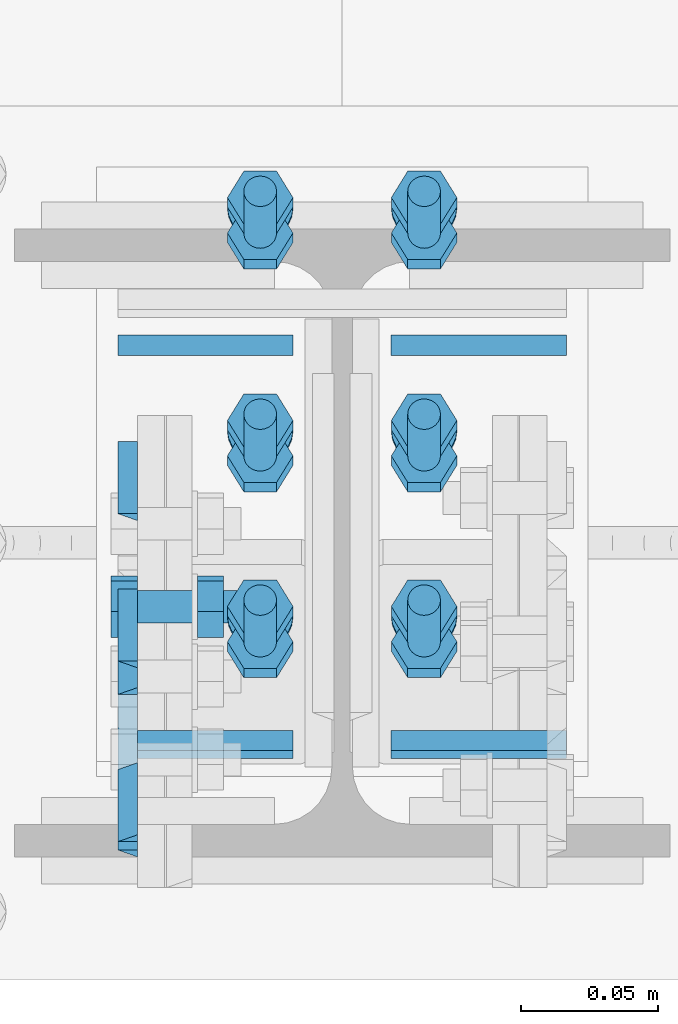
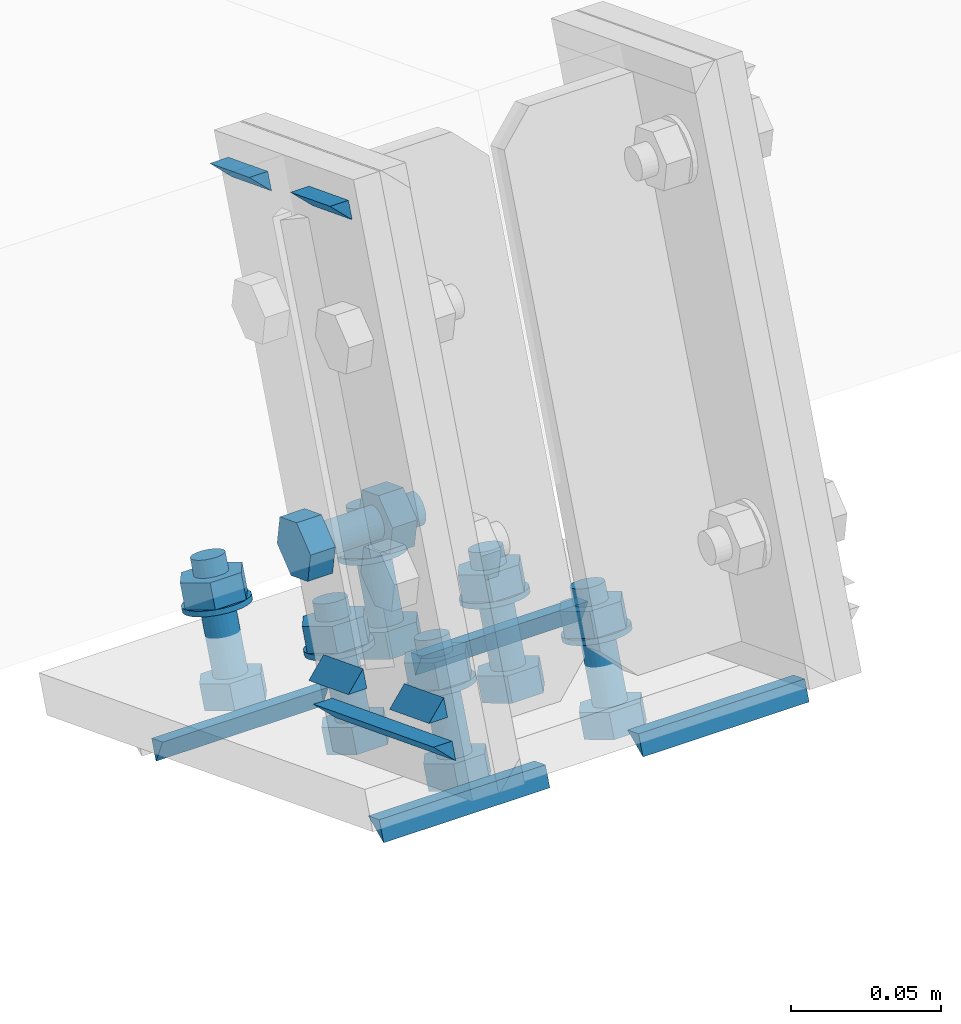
# One storey, part 34 of 72: 27 mechanical fasteners, 18 fasteners.
"""IFC4 building model written with IfcOpenShell, lengths in metres."""

from ifc_helpers import new_model, si_unit, frame, origin_with_axes, place, context, project, spatial, polyline, outline, extrude, type_object, element, save


model = new_model("IFC4")

# Units and contexts
model_context = context("Model", 3, precision=1e-05, world=origin_with_axes())
ifc_project = project(units=[si_unit("LENGTHUNIT", "METRE"), si_unit("AREAUNIT", "SQUARE_METRE"), si_unit("VOLUMEUNIT", "CUBIC_METRE"), si_unit("MASSUNIT", "GRAM", prefix="KILO"), si_unit("TIMEUNIT", "SECOND"), si_unit("PLANEANGLEUNIT", "RADIAN"), si_unit("SOLIDANGLEUNIT", "STERADIAN"), si_unit("THERMODYNAMICTEMPERATUREUNIT", "DEGREE_CELSIUS")], contexts=[model_context])

# Site, building, storey
placement_1 = place(None, origin_with_axes())
site = spatial("IfcSite", under=ifc_project, at=placement_1, Name="Italia", CompositionType="ELEMENT")
building = spatial("IfcBuilding", under=site, at=placement_1, Name="Uffici", CompositionType="ELEMENT")
storey = spatial("IfcBuildingStorey", under=building, at=placement_1, Name="Storey 0", CompositionType="ELEMENT", Elevation=0.0)

# Fasteners
fastener_type_1 = type_object("IfcFastenerType", Name="Collegamento 0203_0103", PredefinedType="WELD")
placement_2 = place(placement_1, origin_with_axes())
fastener_1_placement = place(placement_2, origin_with_axes())
element("IfcFastener", 1, at=fastener_1_placement, inside=storey, type_object=fastener_type_1, Name="Collegamento 0203_0103", context=model_context, shape_type="SweptSolid", body=[
    extrude(outline(polyline([(0.0, 0.0), (-0.00443701, -0.0104871), (-0.00739191, -0.00286627), (0.0, 0.0)])), frame((6.83705, 0.0686728, 6.96138), z_axis=(-1.0, 0.0, 0.0), x_axis=(0.0, -1.0, 0.0)), (0.0, 0.0, 1.0), 0.0641007),
])
fastener_type_2 = type_object("IfcFastenerType", Name="Collegamento 0203_0103", PredefinedType="WELD")
fastener_2_placement = place(placement_2, origin_with_axes())
element("IfcFastener", 2, at=fastener_2_placement, inside=storey, type_object=fastener_type_2, Name="Collegamento 0203_0103", context=model_context, shape_type="SweptSolid", body=[
    extrude(outline(polyline([(0.0, 0.0), (-0.0103468, -0.00475407), (-0.00739191, 0.00286627), (0.0, 0.0)])), frame((6.77295, -0.0686365, 7.01462), z_axis=(1.0, 0.0, 0.0), x_axis=(0.0, 1.0, 0.0)), (0.0, 0.0, 1.0), 0.0641007),
])
fastener_type_3 = type_object("IfcFastenerType", Name="Collegamento 0203_0103", PredefinedType="WELD")
fastener_3_placement = place(placement_2, origin_with_axes())
element("IfcFastener", 3, at=fastener_3_placement, inside=storey, type_object=fastener_type_3, Name="Collegamento 0203_0103", context=model_context, shape_type="SweptSolid", body=[
    extrude(outline(polyline([(0.0, 0.0), (-0.0103468, -0.00475407), (-0.00739191, 0.00286627), (0.0, 0.0)])), frame((6.67295, -0.0686365, 7.01462), z_axis=(1.0, 0.0, 0.0), x_axis=(0.0, 1.0, 0.0)), (0.0, 0.0, 1.0), 0.0641007),
])
fastener_type_4 = type_object("IfcFastenerType", Name="Collegamento 0203_0103", PredefinedType="WELD")
fastener_4_placement = place(placement_2, origin_with_axes())
element("IfcFastener", 4, at=fastener_4_placement, inside=storey, type_object=fastener_type_4, Name="Collegamento 0203_0103", context=model_context, shape_type="SweptSolid", body=[
    extrude(outline(polyline([(0.0, 0.0), (-0.00443701, -0.0104871), (-0.00739191, -0.00286627), (0.0, 0.0)])), frame((6.73705, 0.0686728, 6.96138), z_axis=(-1.0, 0.0, 0.0), x_axis=(0.0, -1.0, 0.0)), (0.0, 0.0, 1.0), 0.0641007),
])
fastener_type_5 = type_object("IfcFastenerType", Name="Collegamento 0203_0103", PredefinedType="WELD")
fastener_5_placement = place(placement_2, origin_with_axes())
element("IfcFastener", 5, at=fastener_5_placement, inside=storey, type_object=fastener_type_5, Name="Collegamento 0203_0103", context=model_context, shape_type="SweptSolid", body=[
    extrude(outline(polyline([(0.0, 0.0), (-0.00443701, -0.0104871), (-0.00739191, -0.00286627), (0.0, 0.0)])), frame((6.83705, 0.0686728, 6.96138), z_axis=(-1.0, 0.0, 0.0), x_axis=(0.0, -1.0, 0.0)), (0.0, 0.0, 1.0), 0.0641007),
])
fastener_type_6 = type_object("IfcFastenerType", Name="Collegamento 0203_0103", PredefinedType="WELD")
fastener_6_placement = place(placement_2, origin_with_axes())
element("IfcFastener", 6, at=fastener_6_placement, inside=storey, type_object=fastener_type_6, Name="Collegamento 0203_0103", context=model_context, shape_type="SweptSolid", body=[
    extrude(outline(polyline([(0.0, 0.0), (-0.0103468, -0.00475407), (-0.00739191, 0.00286627), (0.0, 0.0)])), frame((6.77295, -0.0686365, 7.01462), z_axis=(1.0, 0.0, 0.0), x_axis=(0.0, 1.0, 0.0)), (0.0, 0.0, 1.0), 0.0641007),
])
fastener_type_7 = type_object("IfcFastenerType", Name="Collegamento 0203_0103", PredefinedType="WELD")
fastener_7_placement = place(placement_2, origin_with_axes())
element("IfcFastener", 7, at=fastener_7_placement, inside=storey, type_object=fastener_type_7, Name="Collegamento 0203_0103", context=model_context, shape_type="SweptSolid", body=[
    extrude(outline(polyline([(0.0, 0.0), (-0.0103468, -0.00475407), (-0.00739191, 0.00286627), (0.0, 0.0)])), frame((6.67295, -0.0686365, 7.01462), z_axis=(1.0, 0.0, 0.0), x_axis=(0.0, 1.0, 0.0)), (0.0, 0.0, 1.0), 0.0641007),
])
fastener_type_8 = type_object("IfcFastenerType", Name="Collegamento 0203_0103", PredefinedType="WELD")
fastener_8_placement = place(placement_2, origin_with_axes())
element("IfcFastener", 8, at=fastener_8_placement, inside=storey, type_object=fastener_type_8, Name="Collegamento 0203_0103", context=model_context, shape_type="SweptSolid", body=[
    extrude(outline(polyline([(0.0, 0.0), (-0.00443701, -0.0104871), (-0.00739191, -0.00286627), (0.0, 0.0)])), frame((6.73705, 0.0686728, 6.96138), z_axis=(-1.0, 0.0, 0.0), x_axis=(0.0, -1.0, 0.0)), (0.0, 0.0, 1.0), 0.0641007),
])

# Mechanical fasteners
mechanical_fastener_type_1 = type_object("IfcMechanicalFastenerType", Name="Collegamento 0203_0103", PredefinedType="BOLT")
mechanical_fastener_1_placement = place(placement_2, origin_with_axes())
element("IfcMechanicalFastener", 9, at=mechanical_fastener_1_placement, inside=storey, type_object=mechanical_fastener_type_1, Name="Collegamento 0203_0103", NominalDiameter=0.0119996, context=model_context, shape_type="SweptSolid", body=[
    extrude(outline(polyline([(0.0, 0.0), (0.0119996, 0.0), (0.0179996, -0.0103924), (0.0119996, -0.0207849), (0.0, -0.0207849), (-0.00600004, -0.0103924), (0.0, 0.0)])), frame((6.779, 0.103764, 6.94772), z_axis=(0.0, -0.361526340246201, -0.932361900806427), x_axis=(1.0, 0.0, 0.0)), (0.0, 0.0, 1.0), 0.00960004),
])
mechanical_fastener_type_2 = type_object("IfcMechanicalFastenerType", Name="Collegamento 0203_0103", PredefinedType="BOLT")
mechanical_fastener_2_placement = place(placement_2, origin_with_axes())
element("IfcMechanicalFastener", 10, at=mechanical_fastener_2_placement, inside=storey, type_object=mechanical_fastener_type_2, Name="Collegamento 0203_0103", NominalDiameter=0.012, context=model_context, shape_type="SweptSolid", body=[
    extrude(outline(polyline([(0.0, 0.0), (-0.000204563, -0.00155282), (-0.000803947, -0.00300002), (-0.00175762, -0.00424266), (-0.00300026, -0.00519633), (-0.00444698, -0.00579548), (-0.00600004, -0.0059998), (-0.0075531, -0.00579548), (-0.00899982, -0.00519633), (-0.0102425, -0.00424266), (-0.0111961, -0.00300002), (-0.0117955, -0.00155282), (-0.0120001, 0.0), (-0.0117955, 0.00155282), (-0.0111961, 0.00300002), (-0.0102425, 0.00424266), (-0.00899982, 0.00519633), (-0.0075531, 0.00579548), (-0.00600004, 0.00600004), (-0.00444698, 0.00579548), (-0.00300026, 0.00519633), (-0.00175762, 0.00424266), (-0.000803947, 0.00300002), (-0.000204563, 0.00155282), (0.0, 0.0)])), frame((6.791, 0.12871, 6.9833), z_axis=(0.0, -0.361526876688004, -0.932361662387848), x_axis=(1.0, 0.0, 0.0)), (0.0, 0.0, 1.0), 0.0422001),
])
mechanical_fastener_type_3 = type_object("IfcMechanicalFastenerType", Name="Collegamento 0203_0103", PredefinedType="BOLT")
mechanical_fastener_3_placement = place(placement_2, origin_with_axes())
element("IfcMechanicalFastener", 11, at=mechanical_fastener_3_placement, inside=storey, type_object=mechanical_fastener_type_3, Name="Collegamento 0203_0103", NominalDiameter=0.0119996, context=model_context, shape_type="SweptSolid", body=[
    extrude(outline(polyline([(0.0, 0.0), (0.0119996, 0.0), (0.0179996, -0.0103924), (0.0119996, -0.0207849), (0.0, -0.0207849), (-0.00600004, -0.0103924), (0.0, 0.0)])), frame((6.779, 0.116706, 6.98109), z_axis=(0.0, -0.361526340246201, -0.932361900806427), x_axis=(1.0, 0.0, 0.0)), (0.0, 0.0, 1.0), 0.00960004),
])
mechanical_fastener_type_4 = type_object("IfcMechanicalFastenerType", Name="Collegamento 0203_0103", PredefinedType="BOLT")
mechanical_fastener_4_placement = place(placement_2, origin_with_axes())
element("IfcMechanicalFastener", 12, at=mechanical_fastener_4_placement, inside=storey, type_object=mechanical_fastener_type_4, Name="Collegamento 0203_0103", NominalDiameter=0.024, context=model_context, shape_type="SweptSolid", body=[
    extrude(outline(polyline([(0.0, 0.0), (-0.000409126, -0.00310588), (-0.00160789, -0.00600004), (-0.00351477, -0.00848532), (-0.00600004, -0.0103924), (-0.00889444, -0.0115912), (-0.0120001, -0.0120001), (-0.0151057, -0.0115912), (-0.0180001, -0.0103924), (-0.0204854, -0.00848532), (-0.0223923, -0.00600004), (-0.023591, -0.00310588), (-0.0240002, 0.0), (-0.023591, 0.00310588), (-0.0223923, 0.0059998), (-0.0204854, 0.00848508), (-0.0180001, 0.0103922), (-0.0151057, 0.0115912), (-0.0120001, 0.0119998), (-0.00889444, 0.0115912), (-0.00600004, 0.0103922), (-0.00351477, 0.00848508), (-0.00160789, 0.0059998), (-0.000409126, 0.00310588), (0.0, 0.0)])), frame((6.797, 0.122925, 6.96839), z_axis=(0.0, -0.36160933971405, -0.932329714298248), x_axis=(1.0, 0.0, 0.0)), (0.0, 0.0, 1.0), 0.00199976),
])
mechanical_fastener_type_5 = type_object("IfcMechanicalFastenerType", Name="Collegamento 0203_0103", PredefinedType="BOLT")
mechanical_fastener_5_placement = place(placement_2, origin_with_axes())
element("IfcMechanicalFastener", 13, at=mechanical_fastener_5_placement, inside=storey, type_object=mechanical_fastener_type_5, Name="Collegamento 0203_0103", NominalDiameter=0.0119996, context=model_context, shape_type="SweptSolid", body=[
    extrude(outline(polyline([(0.0, 0.0), (0.0119996, 0.0), (0.0179996, -0.0103924), (0.0119996, -0.0207849), (0.0, -0.0207849), (-0.00600004, -0.0103924), (0.0, 0.0)])), frame((6.719, 0.103764, 6.94772), z_axis=(0.0, -0.361526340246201, -0.932361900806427), x_axis=(1.0, 0.0, 0.0)), (0.0, 0.0, 1.0), 0.00960004),
])
mechanical_fastener_type_6 = type_object("IfcMechanicalFastenerType", Name="Collegamento 0203_0103", PredefinedType="BOLT")
mechanical_fastener_6_placement = place(placement_2, origin_with_axes())
element("IfcMechanicalFastener", 14, at=mechanical_fastener_6_placement, inside=storey, type_object=mechanical_fastener_type_6, Name="Collegamento 0203_0103", NominalDiameter=0.012, context=model_context, shape_type="SweptSolid", body=[
    extrude(outline(polyline([(0.0, 0.0), (-0.000204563, -0.00155282), (-0.000803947, -0.00300002), (-0.00175762, -0.00424266), (-0.00300026, -0.00519633), (-0.00444698, -0.00579548), (-0.00600004, -0.0059998), (-0.0075531, -0.00579548), (-0.00899982, -0.00519633), (-0.0102425, -0.00424266), (-0.0111961, -0.00300002), (-0.0117955, -0.00155282), (-0.0120001, 0.0), (-0.0117955, 0.00155282), (-0.0111961, 0.00300002), (-0.0102425, 0.00424266), (-0.00899982, 0.00519633), (-0.0075531, 0.00579548), (-0.00600004, 0.00600004), (-0.00444698, 0.00579548), (-0.00300026, 0.00519633), (-0.00175762, 0.00424266), (-0.000803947, 0.00300002), (-0.000204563, 0.00155282), (0.0, 0.0)])), frame((6.731, 0.12871, 6.9833), z_axis=(0.0, -0.361526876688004, -0.932361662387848), x_axis=(1.0, 0.0, 0.0)), (0.0, 0.0, 1.0), 0.0422001),
])
mechanical_fastener_type_7 = type_object("IfcMechanicalFastenerType", Name="Collegamento 0203_0103", PredefinedType="BOLT")
mechanical_fastener_7_placement = place(placement_2, origin_with_axes())
element("IfcMechanicalFastener", 15, at=mechanical_fastener_7_placement, inside=storey, type_object=mechanical_fastener_type_7, Name="Collegamento 0203_0103", NominalDiameter=0.0119996, context=model_context, shape_type="SweptSolid", body=[
    extrude(outline(polyline([(0.0, 0.0), (0.0119996, 0.0), (0.0179996, -0.0103924), (0.0119996, -0.0207849), (0.0, -0.0207849), (-0.00600004, -0.0103924), (0.0, 0.0)])), frame((6.719, 0.116706, 6.98109), z_axis=(0.0, -0.361526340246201, -0.932361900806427), x_axis=(1.0, 0.0, 0.0)), (0.0, 0.0, 1.0), 0.00960004),
])
mechanical_fastener_type_8 = type_object("IfcMechanicalFastenerType", Name="Collegamento 0203_0103", PredefinedType="BOLT")
mechanical_fastener_8_placement = place(placement_2, origin_with_axes())
element("IfcMechanicalFastener", 16, at=mechanical_fastener_8_placement, inside=storey, type_object=mechanical_fastener_type_8, Name="Collegamento 0203_0103", NominalDiameter=0.024, context=model_context, shape_type="SweptSolid", body=[
    extrude(outline(polyline([(0.0, 0.0), (-0.000409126, -0.00310588), (-0.00160789, -0.00600004), (-0.00351477, -0.00848532), (-0.00600004, -0.0103924), (-0.00889444, -0.0115912), (-0.0120001, -0.0120001), (-0.0151057, -0.0115912), (-0.0180001, -0.0103924), (-0.0204854, -0.00848532), (-0.0223923, -0.00600004), (-0.023591, -0.00310588), (-0.0240002, 0.0), (-0.023591, 0.00310588), (-0.0223923, 0.0059998), (-0.0204854, 0.00848508), (-0.0180001, 0.0103922), (-0.0151057, 0.0115912), (-0.0120001, 0.0119998), (-0.00889444, 0.0115912), (-0.00600004, 0.0103922), (-0.00351477, 0.00848508), (-0.00160789, 0.0059998), (-0.000409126, 0.00310588), (0.0, 0.0)])), frame((6.737, 0.122925, 6.96839), z_axis=(0.0, -0.36160933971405, -0.932329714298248), x_axis=(1.0, 0.0, 0.0)), (0.0, 0.0, 1.0), 0.00199976),
])
mechanical_fastener_type_9 = type_object("IfcMechanicalFastenerType", Name="Collegamento 0203_0103", PredefinedType="BOLT")
mechanical_fastener_9_placement = place(placement_2, origin_with_axes())
element("IfcMechanicalFastener", 17, at=mechanical_fastener_9_placement, inside=storey, type_object=mechanical_fastener_type_9, Name="Collegamento 0203_0103", NominalDiameter=0.0119996, context=model_context, shape_type="SweptSolid", body=[
    extrude(outline(polyline([(0.0, 0.0), (0.0119996, 0.0), (0.0179996, -0.0103927), (0.0119996, -0.0207849), (0.0, -0.0207849), (-0.00600004, -0.0103927), (0.0, 0.0)])), frame((6.779, -0.0458802, 7.00574), z_axis=(0.0, -0.361526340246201, -0.932361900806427), x_axis=(1.0, 0.0, 0.0)), (0.0, 0.0, 1.0), 0.00960004),
])
mechanical_fastener_type_10 = type_object("IfcMechanicalFastenerType", Name="Collegamento 0203_0103", PredefinedType="BOLT")
mechanical_fastener_10_placement = place(placement_2, origin_with_axes())
element("IfcMechanicalFastener", 18, at=mechanical_fastener_10_placement, inside=storey, type_object=mechanical_fastener_type_10, Name="Collegamento 0203_0103", NominalDiameter=0.012, context=model_context, shape_type="SweptSolid", body=[
    extrude(outline(polyline([(0.0, 0.0), (-0.000204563, -0.00155306), (-0.000803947, -0.00300002), (-0.00175762, -0.0042429), (-0.00300026, -0.00519633), (-0.00444698, -0.00579572), (-0.00600004, -0.00600028), (-0.0075531, -0.00579572), (-0.00899982, -0.00519633), (-0.0102425, -0.0042429), (-0.0111961, -0.00300002), (-0.0117955, -0.00155306), (-0.0120001, 0.0), (-0.0117955, 0.00155282), (-0.0111961, 0.00300002), (-0.0102425, 0.00424266), (-0.00899982, 0.00519586), (-0.0075531, 0.00579548), (-0.00600004, 0.0059998), (-0.00444698, 0.00579548), (-0.00300026, 0.00519586), (-0.00175762, 0.00424266), (-0.000803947, 0.00300002), (-0.000204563, 0.00155282), (0.0, 0.0)])), frame((6.791, -0.0209343, 7.04133), z_axis=(0.0, -0.361532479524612, -0.932359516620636), x_axis=(1.0, 0.0, 0.0)), (0.0, 0.0, 1.0), 0.0421997),
])
mechanical_fastener_type_11 = type_object("IfcMechanicalFastenerType", Name="Collegamento 0203_0103", PredefinedType="BOLT")
mechanical_fastener_11_placement = place(placement_2, origin_with_axes())
element("IfcMechanicalFastener", 19, at=mechanical_fastener_11_placement, inside=storey, type_object=mechanical_fastener_type_11, Name="Collegamento 0203_0103", NominalDiameter=0.0119996, context=model_context, shape_type="SweptSolid", body=[
    extrude(outline(polyline([(0.0, 0.0), (0.0119996, 0.0), (0.0179996, -0.0103922), (0.0119996, -0.0207844), (0.0, -0.0207844), (-0.00600004, -0.0103922), (0.0, 0.0)])), frame((6.779, -0.0329375, 7.03912), z_axis=(0.0, -0.36154305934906, -0.932355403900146), x_axis=(1.0, 0.0, 0.0)), (0.0, 0.0, 1.0), 0.00959959),
])
mechanical_fastener_type_12 = type_object("IfcMechanicalFastenerType", Name="Collegamento 0203_0103", PredefinedType="BOLT")
mechanical_fastener_12_placement = place(placement_2, origin_with_axes())
element("IfcMechanicalFastener", 20, at=mechanical_fastener_12_placement, inside=storey, type_object=mechanical_fastener_type_12, Name="Collegamento 0203_0103", NominalDiameter=0.024, context=model_context, shape_type="SweptSolid", body=[
    extrude(outline(polyline([(0.0, 0.0), (-0.000409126, -0.00310588), (-0.00160789, -0.00600028), (-0.00351477, -0.00848532), (-0.00600004, -0.0103924), (-0.00889444, -0.0115912), (-0.0120001, -0.0120001), (-0.0151057, -0.0115912), (-0.0180001, -0.0103924), (-0.0204854, -0.00848532), (-0.0223923, -0.00600028), (-0.023591, -0.00310588), (-0.0240002, 0.0), (-0.023591, 0.00310564), (-0.0223923, 0.0059998), (-0.0204854, 0.00848508), (-0.0180001, 0.010392), (-0.0151057, 0.0115907), (-0.0120001, 0.0119998), (-0.00889444, 0.0115907), (-0.00600004, 0.010392), (-0.00351477, 0.00848508), (-0.00160789, 0.0059998), (-0.000409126, 0.00310564), (0.0, 0.0)])), frame((6.797, -0.0267188, 7.02641), z_axis=(0.0, -0.361576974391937, -0.932342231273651), x_axis=(1.0, 0.0, 0.0)), (0.0, 0.0, 1.0), 0.00199973),
])
mechanical_fastener_type_13 = type_object("IfcMechanicalFastenerType", Name="Collegamento 0203_0103", PredefinedType="BOLT")
mechanical_fastener_13_placement = place(placement_2, origin_with_axes())
element("IfcMechanicalFastener", 21, at=mechanical_fastener_13_placement, inside=storey, type_object=mechanical_fastener_type_13, Name="Collegamento 0203_0103", NominalDiameter=0.0119996, context=model_context, shape_type="SweptSolid", body=[
    extrude(outline(polyline([(0.0, 0.0), (0.0119996, 0.0), (0.0179996, -0.0103927), (0.0119996, -0.0207849), (0.0, -0.0207849), (-0.00600004, -0.0103927), (0.0, 0.0)])), frame((6.719, -0.0458802, 7.00574), z_axis=(0.0, -0.361526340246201, -0.932361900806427), x_axis=(1.0, 0.0, 0.0)), (0.0, 0.0, 1.0), 0.00960004),
])
mechanical_fastener_type_14 = type_object("IfcMechanicalFastenerType", Name="Collegamento 0203_0103", PredefinedType="BOLT")
mechanical_fastener_14_placement = place(placement_2, origin_with_axes())
element("IfcMechanicalFastener", 22, at=mechanical_fastener_14_placement, inside=storey, type_object=mechanical_fastener_type_14, Name="Collegamento 0203_0103", NominalDiameter=0.012, context=model_context, shape_type="SweptSolid", body=[
    extrude(outline(polyline([(0.0, 0.0), (-0.000204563, -0.00155306), (-0.000803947, -0.00300002), (-0.00175762, -0.0042429), (-0.00300026, -0.00519633), (-0.00444698, -0.00579572), (-0.00600004, -0.00600028), (-0.0075531, -0.00579572), (-0.00899982, -0.00519633), (-0.0102425, -0.0042429), (-0.0111961, -0.00300002), (-0.0117955, -0.00155306), (-0.0120001, 0.0), (-0.0117955, 0.00155282), (-0.0111961, 0.00300002), (-0.0102425, 0.00424266), (-0.00899982, 0.00519586), (-0.0075531, 0.00579548), (-0.00600004, 0.0059998), (-0.00444698, 0.00579548), (-0.00300026, 0.00519586), (-0.00175762, 0.00424266), (-0.000803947, 0.00300002), (-0.000204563, 0.00155282), (0.0, 0.0)])), frame((6.731, -0.0209343, 7.04133), z_axis=(0.0, -0.361532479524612, -0.932359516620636), x_axis=(1.0, 0.0, 0.0)), (0.0, 0.0, 1.0), 0.0421997),
])
mechanical_fastener_type_15 = type_object("IfcMechanicalFastenerType", Name="Collegamento 0203_0103", PredefinedType="BOLT")
mechanical_fastener_15_placement = place(placement_2, origin_with_axes())
element("IfcMechanicalFastener", 23, at=mechanical_fastener_15_placement, inside=storey, type_object=mechanical_fastener_type_15, Name="Collegamento 0203_0103", NominalDiameter=0.0119996, context=model_context, shape_type="SweptSolid", body=[
    extrude(outline(polyline([(0.0, 0.0), (0.0119996, 0.0), (0.0179996, -0.0103922), (0.0119996, -0.0207844), (0.0, -0.0207844), (-0.00600004, -0.0103922), (0.0, 0.0)])), frame((6.719, -0.0329375, 7.03912), z_axis=(0.0, -0.36154305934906, -0.932355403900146), x_axis=(1.0, 0.0, 0.0)), (0.0, 0.0, 1.0), 0.00959959),
])
mechanical_fastener_type_16 = type_object("IfcMechanicalFastenerType", Name="Collegamento 0203_0103", PredefinedType="BOLT")
mechanical_fastener_16_placement = place(placement_2, origin_with_axes())
element("IfcMechanicalFastener", 24, at=mechanical_fastener_16_placement, inside=storey, type_object=mechanical_fastener_type_16, Name="Collegamento 0203_0103", NominalDiameter=0.024, context=model_context, shape_type="SweptSolid", body=[
    extrude(outline(polyline([(0.0, 0.0), (-0.000409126, -0.00310588), (-0.00160789, -0.00600028), (-0.00351477, -0.00848532), (-0.00600004, -0.0103924), (-0.00889444, -0.0115912), (-0.0120001, -0.0120001), (-0.0151057, -0.0115912), (-0.0180001, -0.0103924), (-0.0204854, -0.00848532), (-0.0223923, -0.00600028), (-0.023591, -0.00310588), (-0.0240002, 0.0), (-0.023591, 0.00310564), (-0.0223923, 0.0059998), (-0.0204854, 0.00848508), (-0.0180001, 0.010392), (-0.0151057, 0.0115907), (-0.0120001, 0.0119998), (-0.00889444, 0.0115907), (-0.00600004, 0.010392), (-0.00351477, 0.00848508), (-0.00160789, 0.0059998), (-0.000409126, 0.00310564), (0.0, 0.0)])), frame((6.737, -0.0267188, 7.02641), z_axis=(0.0, -0.361576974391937, -0.932342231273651), x_axis=(1.0, 0.0, 0.0)), (0.0, 0.0, 1.0), 0.00199973),
])
mechanical_fastener_type_17 = type_object("IfcMechanicalFastenerType", Name="Collegamento 0203_0103", PredefinedType="BOLT")
mechanical_fastener_17_placement = place(placement_2, origin_with_axes())
element("IfcMechanicalFastener", 25, at=mechanical_fastener_17_placement, inside=storey, type_object=mechanical_fastener_type_17, Name="Collegamento 0203_0103", NominalDiameter=0.0119996, context=model_context, shape_type="SweptSolid", body=[
    extrude(outline(polyline([(0.0, 0.0), (0.0119996, 0.0), (0.0179996, -0.0103924), (0.0119996, -0.0207844), (0.0, -0.0207844), (-0.00600004, -0.0103924), (0.0, 0.0)])), frame((6.779, 0.0221821, 6.97935), z_axis=(0.0, -0.361526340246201, -0.932361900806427), x_axis=(1.0, 0.0, 0.0)), (0.0, 0.0, 1.0), 0.00960004),
])
mechanical_fastener_type_18 = type_object("IfcMechanicalFastenerType", Name="Collegamento 0203_0103", PredefinedType="BOLT")
mechanical_fastener_18_placement = place(placement_2, origin_with_axes())
element("IfcMechanicalFastener", 26, at=mechanical_fastener_18_placement, inside=storey, type_object=mechanical_fastener_type_18, Name="Collegamento 0203_0103", NominalDiameter=0.012, context=model_context, shape_type="SweptSolid", body=[
    extrude(outline(polyline([(0.0, 0.0), (-0.000204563, -0.00155282), (-0.000803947, -0.00300002), (-0.00175762, -0.0042429), (-0.00300026, -0.00519633), (-0.00444698, -0.00579572), (-0.00600004, -0.00600028), (-0.0075531, -0.00579572), (-0.00899982, -0.00519633), (-0.0102425, -0.0042429), (-0.0111961, -0.00300002), (-0.0117955, -0.00155282), (-0.0120001, 0.0), (-0.0117955, 0.00155282), (-0.0111961, 0.00300002), (-0.0102425, 0.00424266), (-0.00899982, 0.00519586), (-0.0075531, 0.00579548), (-0.00600004, 0.0059998), (-0.00444698, 0.00579548), (-0.00300026, 0.00519586), (-0.00175762, 0.00424266), (-0.000803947, 0.00300002), (-0.000204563, 0.00155282), (0.0, 0.0)])), frame((6.791, 0.047128, 7.01494), z_axis=(0.0, -0.361528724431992, -0.932361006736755), x_axis=(1.0, 0.0, 0.0)), (0.0, 0.0, 1.0), 0.0422001),
])
mechanical_fastener_type_19 = type_object("IfcMechanicalFastenerType", Name="Collegamento 0203_0103", PredefinedType="BOLT")
mechanical_fastener_19_placement = place(placement_2, origin_with_axes())
element("IfcMechanicalFastener", 27, at=mechanical_fastener_19_placement, inside=storey, type_object=mechanical_fastener_type_19, Name="Collegamento 0203_0103", NominalDiameter=0.0119996, context=model_context, shape_type="SweptSolid", body=[
    extrude(outline(polyline([(0.0, 0.0), (0.0119996, 0.0), (0.0179996, -0.0103922), (0.0119996, -0.0207844), (0.0, -0.0207844), (-0.00600004, -0.0103922), (0.0, 0.0)])), frame((6.779, 0.0351248, 7.01273), z_axis=(0.0, -0.361526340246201, -0.932361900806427), x_axis=(1.0, 0.0, 0.0)), (0.0, 0.0, 1.0), 0.00960004),
])
mechanical_fastener_type_20 = type_object("IfcMechanicalFastenerType", Name="Collegamento 0203_0103", PredefinedType="BOLT")
mechanical_fastener_20_placement = place(placement_2, origin_with_axes())
element("IfcMechanicalFastener", 28, at=mechanical_fastener_20_placement, inside=storey, type_object=mechanical_fastener_type_20, Name="Collegamento 0203_0103", NominalDiameter=0.024, context=model_context, shape_type="SweptSolid", body=[
    extrude(outline(polyline([(0.0, 0.0), (-0.000409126, -0.00310564), (-0.00160789, -0.00600004), (-0.00351477, -0.00848508), (-0.00600004, -0.0103924), (-0.00889444, -0.011591), (-0.0120001, -0.0119998), (-0.0151057, -0.011591), (-0.0180001, -0.0103924), (-0.0204854, -0.00848508), (-0.0223923, -0.00600004), (-0.023591, -0.00310564), (-0.0240002, 0.0), (-0.023591, 0.00310588), (-0.0223923, 0.00600028), (-0.0204854, 0.00848532), (-0.0180001, 0.0103924), (-0.0151057, 0.011591), (-0.0120001, 0.0119998), (-0.00889444, 0.011591), (-0.00600004, 0.0103924), (-0.00351477, 0.00848532), (-0.00160789, 0.00600028), (-0.000409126, 0.00310588), (0.0, 0.0)])), frame((6.797, 0.0413436, 7.00002), z_axis=(0.0, -0.3614162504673, -0.932404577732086), x_axis=(1.0, 0.0, 0.0)), (0.0, 0.0, 1.0), 0.00200062),
])
mechanical_fastener_type_21 = type_object("IfcMechanicalFastenerType", Name="Collegamento 0203_0103", PredefinedType="BOLT")
mechanical_fastener_21_placement = place(placement_2, origin_with_axes())
element("IfcMechanicalFastener", 29, at=mechanical_fastener_21_placement, inside=storey, type_object=mechanical_fastener_type_21, Name="Collegamento 0203_0103", NominalDiameter=0.0119996, context=model_context, shape_type="SweptSolid", body=[
    extrude(outline(polyline([(0.0, 0.0), (0.0119996, 0.0), (0.0179996, -0.0103924), (0.0119996, -0.0207844), (0.0, -0.0207844), (-0.00600004, -0.0103924), (0.0, 0.0)])), frame((6.719, 0.0221821, 6.97935), z_axis=(0.0, -0.361526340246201, -0.932361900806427), x_axis=(1.0, 0.0, 0.0)), (0.0, 0.0, 1.0), 0.00960004),
])
mechanical_fastener_type_22 = type_object("IfcMechanicalFastenerType", Name="Collegamento 0203_0103", PredefinedType="BOLT")
mechanical_fastener_22_placement = place(placement_2, origin_with_axes())
element("IfcMechanicalFastener", 30, at=mechanical_fastener_22_placement, inside=storey, type_object=mechanical_fastener_type_22, Name="Collegamento 0203_0103", NominalDiameter=0.012, context=model_context, shape_type="SweptSolid", body=[
    extrude(outline(polyline([(0.0, 0.0), (-0.000204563, -0.00155282), (-0.000803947, -0.00300002), (-0.00175762, -0.0042429), (-0.00300026, -0.00519633), (-0.00444698, -0.00579572), (-0.00600004, -0.00600028), (-0.0075531, -0.00579572), (-0.00899982, -0.00519633), (-0.0102425, -0.0042429), (-0.0111961, -0.00300002), (-0.0117955, -0.00155282), (-0.0120001, 0.0), (-0.0117955, 0.00155282), (-0.0111961, 0.00300002), (-0.0102425, 0.00424266), (-0.00899982, 0.00519586), (-0.0075531, 0.00579548), (-0.00600004, 0.0059998), (-0.00444698, 0.00579548), (-0.00300026, 0.00519586), (-0.00175762, 0.00424266), (-0.000803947, 0.00300002), (-0.000204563, 0.00155282), (0.0, 0.0)])), frame((6.731, 0.047128, 7.01494), z_axis=(0.0, -0.361528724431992, -0.932361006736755), x_axis=(1.0, 0.0, 0.0)), (0.0, 0.0, 1.0), 0.0422001),
])
mechanical_fastener_type_23 = type_object("IfcMechanicalFastenerType", Name="Collegamento 0203_0103", PredefinedType="BOLT")
mechanical_fastener_23_placement = place(placement_2, origin_with_axes())
element("IfcMechanicalFastener", 31, at=mechanical_fastener_23_placement, inside=storey, type_object=mechanical_fastener_type_23, Name="Collegamento 0203_0103", NominalDiameter=0.0119996, context=model_context, shape_type="SweptSolid", body=[
    extrude(outline(polyline([(0.0, 0.0), (0.0119996, 0.0), (0.0179996, -0.0103922), (0.0119996, -0.0207844), (0.0, -0.0207844), (-0.00600004, -0.0103922), (0.0, 0.0)])), frame((6.719, 0.0351248, 7.01273), z_axis=(0.0, -0.361526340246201, -0.932361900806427), x_axis=(1.0, 0.0, 0.0)), (0.0, 0.0, 1.0), 0.00960004),
])
mechanical_fastener_type_24 = type_object("IfcMechanicalFastenerType", Name="Collegamento 0203_0103", PredefinedType="BOLT")
mechanical_fastener_24_placement = place(placement_2, origin_with_axes())
element("IfcMechanicalFastener", 32, at=mechanical_fastener_24_placement, inside=storey, type_object=mechanical_fastener_type_24, Name="Collegamento 0203_0103", NominalDiameter=0.024, context=model_context, shape_type="SweptSolid", body=[
    extrude(outline(polyline([(0.0, 0.0), (-0.000409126, -0.00310564), (-0.00160789, -0.00600004), (-0.00351477, -0.00848508), (-0.00600004, -0.0103924), (-0.00889444, -0.011591), (-0.0120001, -0.0119998), (-0.0151057, -0.011591), (-0.0180001, -0.0103924), (-0.0204854, -0.00848508), (-0.0223923, -0.00600004), (-0.023591, -0.00310564), (-0.0240002, 0.0), (-0.023591, 0.00310588), (-0.0223923, 0.00600028), (-0.0204854, 0.00848532), (-0.0180001, 0.0103924), (-0.0151057, 0.011591), (-0.0120001, 0.0119998), (-0.00889444, 0.011591), (-0.00600004, 0.0103924), (-0.00351477, 0.00848532), (-0.00160789, 0.00600028), (-0.000409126, 0.00310588), (0.0, 0.0)])), frame((6.737, 0.0413436, 7.00002), z_axis=(0.0, -0.3614162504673, -0.932404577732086), x_axis=(1.0, 0.0, 0.0)), (0.0, 0.0, 1.0), 0.00200062),
])

# Fasteners
fastener_type_9 = type_object("IfcFastenerType", Name="Collegamento 0203_0202", PredefinedType="WELD")
fastener_9_placement = place(placement_2, origin_with_axes())
element("IfcFastener", 33, at=fastener_9_placement, inside=storey, type_object=fastener_type_9, Name="Collegamento 0203_0202", context=model_context, shape_type="SweptSolid", body=[
    extrude(outline(polyline([(0.0, 0.0), (-0.00717354, 0.00695801), (0.0, 0.00695801), (0.0, 0.0)])), frame((6.68005, 0.0345697, 7.21007), z_axis=(0.0, -0.932385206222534, 0.361466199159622), x_axis=(1.0, 0.0, 0.0)), (0.0, 0.0, 1.0), 0.0283003),
])
fastener_type_10 = type_object("IfcFastenerType", Name="Collegamento 0203_0202", PredefinedType="WELD")
fastener_10_placement = place(placement_2, origin_with_axes())
element("IfcFastener", 34, at=fastener_10_placement, inside=storey, type_object=fastener_type_10, Name="Collegamento 0203_0202", context=model_context, shape_type="SweptSolid", body=[
    extrude(outline(polyline([(0.0, 0.0), (0.00717354, -0.00695753), (0.0, -0.00695753), (0.0, 0.0)])), frame((6.68005, -0.0529705, 7.06256), z_axis=(0.0, 0.932390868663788, -0.36145156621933), x_axis=(-1.0, 0.0, 0.0)), (0.0, 0.0, 1.0), 0.0283001),
])
fastener_type_11 = type_object("IfcFastenerType", Name="Collegamento 0203_0202", PredefinedType="WELD")
fastener_11_placement = place(placement_2, origin_with_axes())
element("IfcFastener", 35, at=fastener_11_placement, inside=storey, type_object=fastener_type_11, Name="Collegamento 0203_0202", context=model_context, shape_type="SweptSolid", body=[
    extrude(outline(polyline([(0.0, 0.0), (-0.00717354, 0.00695801), (0.0, 0.00695801), (0.0, 0.0)])), frame((6.68005, -0.0346503, 7.03152), z_axis=(0.0, -0.93238765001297, 0.361459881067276), x_axis=(1.0, 0.0, 0.0)), (0.0, 0.0, 1.0), 0.0861001),
])
fastener_type_12 = type_object("IfcFastenerType", Name="Collegamento 0203_0202", PredefinedType="WELD")
fastener_12_placement = place(placement_2, origin_with_axes())
element("IfcFastener", 36, at=fastener_12_placement, inside=storey, type_object=fastener_type_12, Name="Collegamento 0203_0202", context=model_context, shape_type="SweptSolid", body=[
    extrude(outline(polyline([(0.0, 0.0), (0.00717354, -0.00695848), (0.0, -0.00695848), (0.0, 0.0)])), frame((6.68005, -0.106862, 7.08345), z_axis=(0.0, 0.932385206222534, -0.361466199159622), x_axis=(-1.0, 0.0, 0.0)), (0.0, 0.0, 1.0), 0.0283003),
])
fastener_type_13 = type_object("IfcFastenerType", Name="Collegamento 0203_0202", PredefinedType="WELD")
fastener_13_placement = place(placement_2, origin_with_axes())
element("IfcFastener", 37, at=fastener_13_placement, inside=storey, type_object=fastener_type_13, Name="Collegamento 0203_0202", context=model_context, shape_type="SweptSolid", body=[
    extrude(outline(polyline([(0.0, 0.0), (-0.00717354, 0.00695848), (0.0, 0.00695848), (0.0, 0.0)])), frame((6.68005, -0.0193225, 7.23096), z_axis=(0.0, -0.932388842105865, 0.361456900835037), x_axis=(1.0, 0.0, 0.0)), (0.0, 0.0, 1.0), 0.0282997),
])
fastener_type_14 = type_object("IfcFastenerType", Name="Collegamento 0203_0202", PredefinedType="WELD")
fastener_14_placement = place(placement_2, origin_with_axes())
element("IfcFastener", 38, at=fastener_14_placement, inside=storey, type_object=fastener_type_14, Name="Collegamento 0203_0202", context=model_context, shape_type="SweptSolid", body=[
    extrude(outline(polyline([(0.0, 0.0), (-0.00717354, 0.00695801), (0.0, 0.00695801), (0.0, 0.0)])), frame((6.68005, 0.0345697, 7.21007), z_axis=(0.0, -0.932385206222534, 0.361466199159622), x_axis=(1.0, 0.0, 0.0)), (0.0, 0.0, 1.0), 0.0283003),
])
fastener_type_15 = type_object("IfcFastenerType", Name="Collegamento 0203_0202", PredefinedType="WELD")
fastener_15_placement = place(placement_2, origin_with_axes())
element("IfcFastener", 39, at=fastener_15_placement, inside=storey, type_object=fastener_type_15, Name="Collegamento 0203_0202", context=model_context, shape_type="SweptSolid", body=[
    extrude(outline(polyline([(0.0, 0.0), (0.00717354, -0.00695753), (0.0, -0.00695753), (0.0, 0.0)])), frame((6.68005, -0.0529705, 7.06256), z_axis=(0.0, 0.932390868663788, -0.36145156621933), x_axis=(-1.0, 0.0, 0.0)), (0.0, 0.0, 1.0), 0.0283001),
])
fastener_type_16 = type_object("IfcFastenerType", Name="Collegamento 0203_0202", PredefinedType="WELD")
fastener_16_placement = place(placement_2, origin_with_axes())
element("IfcFastener", 40, at=fastener_16_placement, inside=storey, type_object=fastener_type_16, Name="Collegamento 0203_0202", context=model_context, shape_type="SweptSolid", body=[
    extrude(outline(polyline([(0.0, 0.0), (-0.00717354, 0.00695801), (0.0, 0.00695801), (0.0, 0.0)])), frame((6.68005, -0.0346503, 7.03152), z_axis=(0.0, -0.93238765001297, 0.361459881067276), x_axis=(1.0, 0.0, 0.0)), (0.0, 0.0, 1.0), 0.0861001),
])
fastener_type_17 = type_object("IfcFastenerType", Name="Collegamento 0203_0202", PredefinedType="WELD")
fastener_17_placement = place(placement_2, origin_with_axes())
element("IfcFastener", 41, at=fastener_17_placement, inside=storey, type_object=fastener_type_17, Name="Collegamento 0203_0202", context=model_context, shape_type="SweptSolid", body=[
    extrude(outline(polyline([(0.0, 0.0), (0.00717354, -0.00695848), (0.0, -0.00695848), (0.0, 0.0)])), frame((6.68005, -0.106862, 7.08345), z_axis=(0.0, 0.932385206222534, -0.361466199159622), x_axis=(-1.0, 0.0, 0.0)), (0.0, 0.0, 1.0), 0.0283003),
])
fastener_type_18 = type_object("IfcFastenerType", Name="Collegamento 0203_0202", PredefinedType="WELD")
fastener_18_placement = place(placement_2, origin_with_axes())
element("IfcFastener", 42, at=fastener_18_placement, inside=storey, type_object=fastener_type_18, Name="Collegamento 0203_0202", context=model_context, shape_type="SweptSolid", body=[
    extrude(outline(polyline([(0.0, 0.0), (-0.00717354, 0.00695848), (0.0, 0.00695848), (0.0, 0.0)])), frame((6.68005, -0.0193225, 7.23096), z_axis=(0.0, -0.932388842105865, 0.361456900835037), x_axis=(1.0, 0.0, 0.0)), (0.0, 0.0, 1.0), 0.0282997),
])

# Mechanical fasteners
mechanical_fastener_type_25 = type_object("IfcMechanicalFastenerType", Name="Collegamento 0203_0202", PredefinedType="BOLT")
mechanical_fastener_25_placement = place(placement_2, origin_with_axes())
element("IfcMechanicalFastener", 43, at=mechanical_fastener_25_placement, inside=storey, type_object=mechanical_fastener_type_25, Name="Collegamento 0203_0202", NominalDiameter=0.0119999, context=model_context, shape_type="SweptSolid", body=[
    extrude(outline(polyline([(0.0, 0.0), (-0.0111886, -0.00433731), (-0.0205394, 0.00318336), (-0.0187015, 0.0150418), (-0.00751284, 0.0193796), (0.0018379, 0.0118585), (0.0, 0.0)])), frame((6.68, -0.0327067, 7.08924), z_axis=(-1.0, 0.0, 0.0), x_axis=(0.0, -1.0, 0.0)), (0.0, 0.0, 1.0), 0.00960016),
])
mechanical_fastener_type_26 = type_object("IfcMechanicalFastenerType", Name="Collegamento 0203_0202", PredefinedType="BOLT")
mechanical_fastener_26_placement = place(placement_2, origin_with_axes())
element("IfcMechanicalFastener", 44, at=mechanical_fastener_26_placement, inside=storey, type_object=mechanical_fastener_type_26, Name="Collegamento 0203_0202", NominalDiameter=0.012, context=model_context, shape_type="SweptSolid", body=[
    extrude(outline(polyline([(0.0, 0.0), (-0.000204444, -0.00155306), (-0.000803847, -0.00299978), (-0.00175736, -0.00424242), (-0.003, -0.00519609), (-0.00444708, -0.00579548), (-0.006, -0.00600004), (-0.00755291, -0.00579548), (-0.009, -0.00519609), (-0.0102426, -0.00424242), (-0.0111962, -0.00299978), (-0.0117956, -0.00155306), (-0.012, 0.0), (-0.0117956, 0.00155306), (-0.0111962, 0.00299978), (-0.0102426, 0.00424242), (-0.009, 0.00519609), (-0.00755291, 0.00579548), (-0.006, 0.00600004), (-0.00444709, 0.00579548), (-0.003, 0.00519609), (-0.00175736, 0.00424242), (-0.000803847, 0.00299978), (-0.000204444, 0.00155306), (0.0, 0.0)])), frame((6.718, -0.029356, 7.09676), z_axis=(-1.0, 0.0, 0.0), x_axis=(0.0, -1.0, 0.0)), (0.0, 0.0, 1.0), 0.0380001),
])
mechanical_fastener_type_27 = type_object("IfcMechanicalFastenerType", Name="Collegamento 0203_0202", PredefinedType="BOLT")
mechanical_fastener_27_placement = place(placement_2, origin_with_axes())
element("IfcMechanicalFastener", 45, at=mechanical_fastener_27_placement, inside=storey, type_object=mechanical_fastener_type_27, Name="Collegamento 0203_0202", NominalDiameter=0.0119999, context=model_context, shape_type="SweptSolid", body=[
    extrude(outline(polyline([(0.0, 0.0), (-0.0111886, -0.00433731), (-0.0205394, 0.00318336), (-0.0187015, 0.0150418), (-0.00751284, 0.0193796), (0.0018379, 0.0118585), (0.0, 0.0)])), frame((6.7116, -0.0327067, 7.08924), z_axis=(-1.0, 0.0, 0.0), x_axis=(0.0, -1.0, 0.0)), (0.0, 0.0, 1.0), 0.00960016),
])

save(model, "model.ifc")
